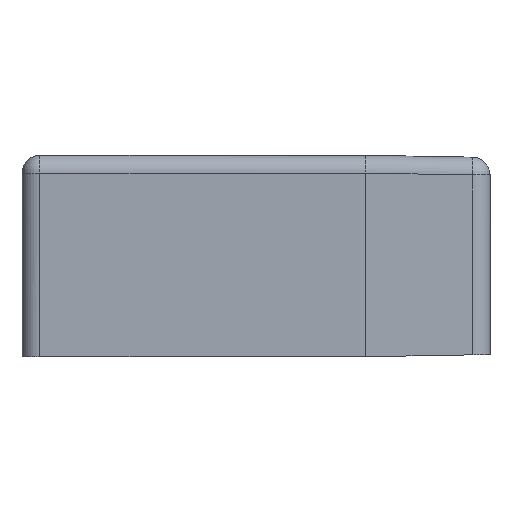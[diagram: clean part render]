
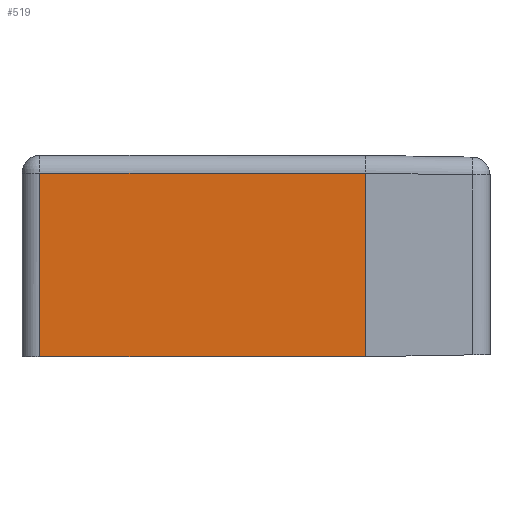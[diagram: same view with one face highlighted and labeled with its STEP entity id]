
A CAD part, front view. The second image highlights one B-rep face of the part: STEP entity #519.
In plain terms, the highlighted planar face has unit normal (0, -1, -0.018).
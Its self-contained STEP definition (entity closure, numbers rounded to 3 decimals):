
#519=ADVANCED_FACE('',(#1145),#903,.T.);
#903=PLANE('',#7574);
#1145=FACE_OUTER_BOUND('',#1519,.T.);
#1519=EDGE_LOOP('',(#3394,#3395,#3396,#3397));
#1971=LINE('',#10259,#2588);
#1987=LINE('',#10293,#2604);
#1988=LINE('',#10295,#2605);
#1989=LINE('',#10297,#2606);
#2588=VECTOR('',#8330,1.);
#2604=VECTOR('',#8352,1.);
#2605=VECTOR('',#8353,1.);
#2606=VECTOR('',#8354,1.);
#3394=ORIENTED_EDGE('',*,*,#6290,.T.);
#3395=ORIENTED_EDGE('',*,*,#6307,.T.);
#3396=ORIENTED_EDGE('',*,*,#6308,.T.);
#3397=ORIENTED_EDGE('',*,*,#6309,.T.);
#5519=VERTEX_POINT('',#10258);
#5520=VERTEX_POINT('',#10260);
#5535=VERTEX_POINT('',#10294);
#5536=VERTEX_POINT('',#10296);
#6290=EDGE_CURVE('',#5520,#5519,#1971,.T.);
#6307=EDGE_CURVE('',#5519,#5535,#1987,.T.);
#6308=EDGE_CURVE('',#5535,#5536,#1988,.T.);
#6309=EDGE_CURVE('',#5536,#5520,#1989,.T.);
#7574=AXIS2_PLACEMENT_3D('',#10298,#8355,#8356);
#8330=DIRECTION('',(0.,0.017,-1.));
#8352=DIRECTION('',(1.,0.,0.));
#8353=DIRECTION('',(0.,-0.017,1.));
#8354=DIRECTION('',(-1.,0.,0.));
#8355=DIRECTION('',(0.,-1.,-0.017));
#8356=DIRECTION('',(0.,-0.017,1.));
#10258=CARTESIAN_POINT('',(-71.492,97.977,-15.474));
#10259=CARTESIAN_POINT('',(-71.492,97.842,-7.737));
#10260=CARTESIAN_POINT('',(-71.492,97.707,0.));
#10293=CARTESIAN_POINT('',(-57.742,97.977,-15.474));
#10294=CARTESIAN_POINT('',(-43.992,97.977,-15.474));
#10295=CARTESIAN_POINT('',(-43.992,97.842,-7.737));
#10296=CARTESIAN_POINT('',(-43.992,97.707,0.02));
#10297=CARTESIAN_POINT('',(-57.742,97.707,0.));
#10298=CARTESIAN_POINT('',(-72.992,97.706,0.029));
